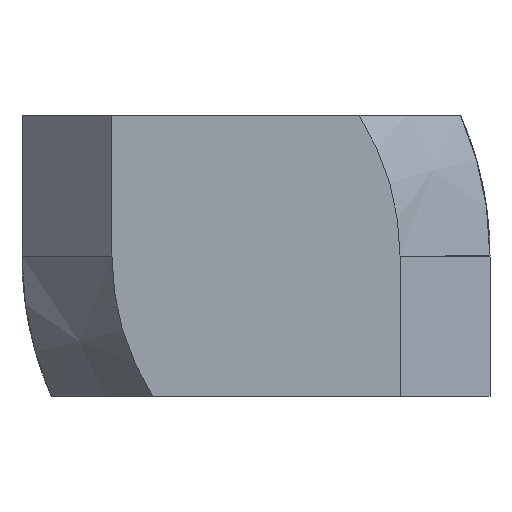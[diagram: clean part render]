
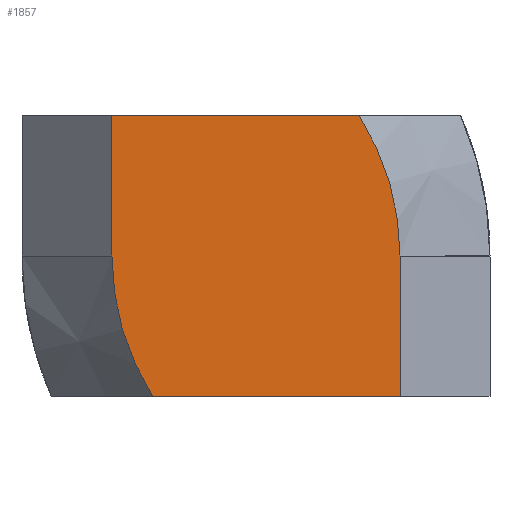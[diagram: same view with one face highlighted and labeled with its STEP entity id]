
A CAD part, front view. The second image highlights one B-rep face of the part: STEP entity #1857.
In plain terms, the highlighted planar face has unit normal (0, -1, 0).
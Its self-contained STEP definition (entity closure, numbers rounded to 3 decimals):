
#81=PLANE('',#2017);
#208=FACE_OUTER_BOUND('',#310,.T.);
#310=EDGE_LOOP('',(#1658,#1659,#1660,#1661,#1662,#1663));
#331=CIRCLE('',#1944,5.578);
#339=CIRCLE('',#1998,5.578);
#487=LINE('',#10715,#628);
#508=LINE('',#10768,#649);
#523=LINE('',#10820,#664);
#537=LINE('',#10859,#678);
#628=VECTOR('',#2280,1000.);
#649=VECTOR('',#2331,1000.);
#664=VECTOR('',#2378,1000.);
#678=VECTOR('',#2412,1000.);
#797=VERTEX_POINT('',#10636);
#798=VERTEX_POINT('',#10640);
#825=VERTEX_POINT('',#10713);
#826=VERTEX_POINT('',#10714);
#860=VERTEX_POINT('',#10812);
#861=VERTEX_POINT('',#10819);
#1033=EDGE_CURVE('',#797,#798,#331,.T.);
#1069=EDGE_CURVE('',#825,#826,#487,.T.);
#1096=EDGE_CURVE('',#797,#825,#508,.T.);
#1121=EDGE_CURVE('',#826,#860,#339,.T.);
#1123=EDGE_CURVE('',#861,#798,#523,.T.);
#1144=EDGE_CURVE('',#861,#860,#537,.T.);
#1658=ORIENTED_EDGE('',*,*,#1069,.T.);
#1659=ORIENTED_EDGE('',*,*,#1121,.T.);
#1660=ORIENTED_EDGE('',*,*,#1144,.F.);
#1661=ORIENTED_EDGE('',*,*,#1123,.T.);
#1662=ORIENTED_EDGE('',*,*,#1033,.F.);
#1663=ORIENTED_EDGE('',*,*,#1096,.T.);
#1857=ADVANCED_FACE('',(#208),#81,.T.);
#1944=AXIS2_PLACEMENT_3D('',#10641,#2209,#2210);
#1998=AXIS2_PLACEMENT_3D('',#10816,#2373,#2374);
#2017=AXIS2_PLACEMENT_3D('',#10873,#2433,#2434);
#2209=DIRECTION('center_axis',(0.,1.,0.));
#2210=DIRECTION('ref_axis',(0.,0.,-1.));
#2280=DIRECTION('',(0.,0.,-1.));
#2331=DIRECTION('',(-1.,0.,0.));
#2373=DIRECTION('center_axis',(0.,-1.,0.));
#2374=DIRECTION('ref_axis',(0.,0.,-1.));
#2378=DIRECTION('',(0.,0.,1.));
#2412=DIRECTION('',(-1.,0.,0.));
#2433=DIRECTION('center_axis',(0.,-1.,0.));
#2434=DIRECTION('ref_axis',(0.,0.,-1.));
#10636=CARTESIAN_POINT('',(2.202,0.,3.));
#10640=CARTESIAN_POINT('',(3.078,0.,0.));
#10641=CARTESIAN_POINT('Origin',(-2.5,0.,0.));
#10713=CARTESIAN_POINT('',(-3.078,0.,3.));
#10714=CARTESIAN_POINT('',(-3.078,0.,0.));
#10715=CARTESIAN_POINT('',(-3.078,0.,3.));
#10768=CARTESIAN_POINT('',(0.,0.,3.));
#10812=CARTESIAN_POINT('',(-2.202,0.,-3.));
#10816=CARTESIAN_POINT('Origin',(2.5,0.,0.));
#10819=CARTESIAN_POINT('',(3.078,0.,-3.));
#10820=CARTESIAN_POINT('',(3.078,0.,-3.));
#10859=CARTESIAN_POINT('',(-5.,0.,-3.));
#10873=CARTESIAN_POINT('Origin',(0.,0.,0.));
